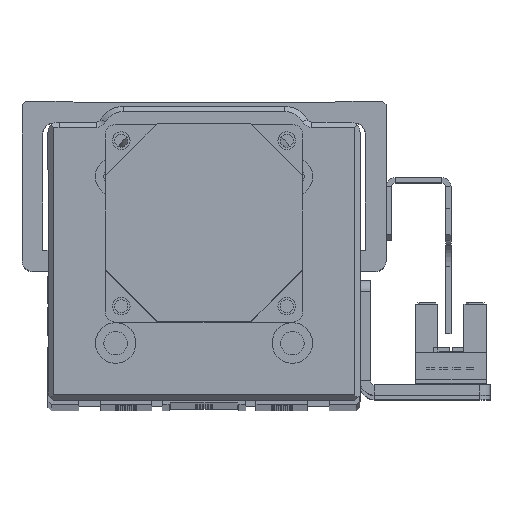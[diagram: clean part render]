
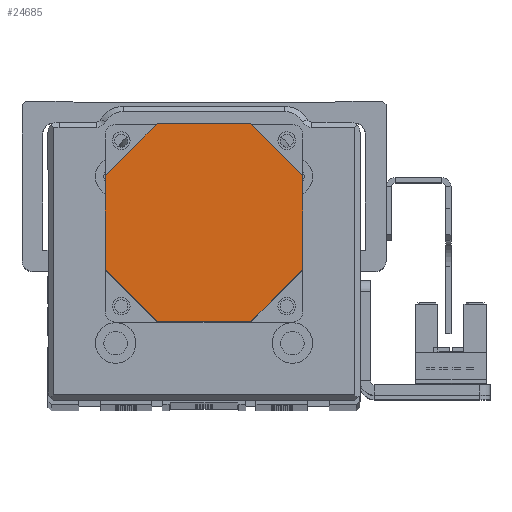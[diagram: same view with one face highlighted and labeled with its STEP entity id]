
A CAD part, top view. The second image highlights one B-rep face of the part: STEP entity #24685.
In plain terms, the highlighted planar face has unit normal (0, 0, 1) as drawn and (0, 0, -1) by its records, which use the part's own axes.
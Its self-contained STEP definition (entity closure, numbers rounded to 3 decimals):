
#650 = LINE ( 'NONE', #26477, #655 ) ;
#655 = VECTOR ( 'NONE', #26471, 1000. ) ;
#698 = LINE ( 'NONE', #26535, #700 ) ;
#700 = VECTOR ( 'NONE', #26528, 1000. ) ;
#707 = LINE ( 'NONE', #26578, #744 ) ;
#711 = VECTOR ( 'NONE', #26558, 1000. ) ;
#716 = LINE ( 'NONE', #26617, #720 ) ;
#720 = VECTOR ( 'NONE', #26630, 1000. ) ;
#732 = VECTOR ( 'NONE', #26605, 1000. ) ;
#737 = LINE ( 'NONE', #26612, #756 ) ;
#744 = VECTOR ( 'NONE', #26568, 1000. ) ;
#748 = LINE ( 'NONE', #26619, #755 ) ;
#755 = VECTOR ( 'NONE', #26626, 1000. ) ;
#756 = VECTOR ( 'NONE', #26615, 1000. ) ;
#764 = LINE ( 'NONE', #26556, #711 ) ;
#767 = LINE ( 'NONE', #26625, #732 ) ;
#2785 = VERTEX_POINT ( 'NONE', #5035 ) ;
#2786 = VERTEX_POINT ( 'NONE', #5061 ) ;
#2796 = VERTEX_POINT ( 'NONE', #5040 ) ;
#2800 = VERTEX_POINT ( 'NONE', #5085 ) ;
#2814 = VERTEX_POINT ( 'NONE', #5048 ) ;
#2831 = VERTEX_POINT ( 'NONE', #5054 ) ;
#2832 = VERTEX_POINT ( 'NONE', #5032 ) ;
#2835 = VERTEX_POINT ( 'NONE', #5034 ) ;
#5032 = CARTESIAN_POINT ( 'NONE',  ( -9., 19., -84. ) ) ;
#5034 = CARTESIAN_POINT ( 'NONE',  ( 19., -9., -84. ) ) ;
#5035 = CARTESIAN_POINT ( 'NONE',  ( -19., 9., -84. ) ) ;
#5040 = CARTESIAN_POINT ( 'NONE',  ( -19., -9., -84. ) ) ;
#5048 = CARTESIAN_POINT ( 'NONE',  ( -9., -19., -84. ) ) ;
#5054 = CARTESIAN_POINT ( 'NONE',  ( 9., 19., -84. ) ) ;
#5061 = CARTESIAN_POINT ( 'NONE',  ( 19., 9., -84. ) ) ;
#5085 = CARTESIAN_POINT ( 'NONE',  ( 9., -19., -84. ) ) ;
#6009 = PLANE ( 'NONE',  #8631 ) ;
#6010 = DIRECTION ( 'NONE',  ( 1., 0., 0. ) ) ;
#6034 = DIRECTION ( 'NONE',  ( 0., 0., 1. ) ) ;
#6043 = CARTESIAN_POINT ( 'NONE',  ( 0., 0., -84. ) ) ;
#8631 = AXIS2_PLACEMENT_3D ( 'NONE', #6043, #6034, #6010 ) ;
#11008 = EDGE_CURVE ( 'NONE', #2785, #2832, #650, .T. ) ;
#11015 = EDGE_CURVE ( 'NONE', #2832, #2831, #698, .T. ) ;
#11042 = EDGE_CURVE ( 'NONE', #2796, #2785, #707, .T. ) ;
#11047 = EDGE_CURVE ( 'NONE', #2786, #2835, #764, .T. ) ;
#11056 = EDGE_CURVE ( 'NONE', #2800, #2814, #767, .T. ) ;
#11063 = EDGE_CURVE ( 'NONE', #2814, #2796, #737, .T. ) ;
#11065 = EDGE_CURVE ( 'NONE', #2831, #2786, #748, .T. ) ;
#11070 = EDGE_CURVE ( 'NONE', #2835, #2800, #716, .T. ) ;
#16735 = ORIENTED_EDGE ( 'NONE', *, *, #11047, .T. ) ;
#16737 = ORIENTED_EDGE ( 'NONE', *, *, #11056, .T. ) ;
#16740 = ORIENTED_EDGE ( 'NONE', *, *, #11065, .T. ) ;
#16746 = ORIENTED_EDGE ( 'NONE', *, *, #11063, .T. ) ;
#16782 = ORIENTED_EDGE ( 'NONE', *, *, #11008, .T. ) ;
#16793 = ORIENTED_EDGE ( 'NONE', *, *, #11042, .T. ) ;
#16804 = ORIENTED_EDGE ( 'NONE', *, *, #11070, .T. ) ;
#16855 = ORIENTED_EDGE ( 'NONE', *, *, #11015, .T. ) ;
#22663 = FACE_OUTER_BOUND ( 'NONE', #25534, .T. ) ;
#24685 = ADVANCED_FACE ( 'NONE', ( #22663 ), #6009, .F. ) ;
#25534 = EDGE_LOOP ( 'NONE', ( #16746, #16793, #16782, #16855, #16740, #16735, #16804, #16737 ) ) ;
#26471 = DIRECTION ( 'NONE',  ( 0.707, 0.707, 0. ) ) ;
#26477 = CARTESIAN_POINT ( 'NONE',  ( -9., 19., -84. ) ) ;
#26528 = DIRECTION ( 'NONE',  ( 1., 0., 0. ) ) ;
#26535 = CARTESIAN_POINT ( 'NONE',  ( 9., 19., -84. ) ) ;
#26556 = CARTESIAN_POINT ( 'NONE',  ( 19., 9., -84. ) ) ;
#26558 = DIRECTION ( 'NONE',  ( 0., -1., 0. ) ) ;
#26568 = DIRECTION ( 'NONE',  ( 0., 1., 0. ) ) ;
#26578 = CARTESIAN_POINT ( 'NONE',  ( -19., 9., -84. ) ) ;
#26605 = DIRECTION ( 'NONE',  ( -1., 0., 0. ) ) ;
#26612 = CARTESIAN_POINT ( 'NONE',  ( -9., -19., -84. ) ) ;
#26615 = DIRECTION ( 'NONE',  ( -0.707, 0.707, 0. ) ) ;
#26617 = CARTESIAN_POINT ( 'NONE',  ( 19., -9., -84. ) ) ;
#26619 = CARTESIAN_POINT ( 'NONE',  ( 19., 9., -84. ) ) ;
#26625 = CARTESIAN_POINT ( 'NONE',  ( 9., -19., -84. ) ) ;
#26626 = DIRECTION ( 'NONE',  ( 0.707, -0.707, 0. ) ) ;
#26630 = DIRECTION ( 'NONE',  ( -0.707, -0.707, 0. ) ) ;
